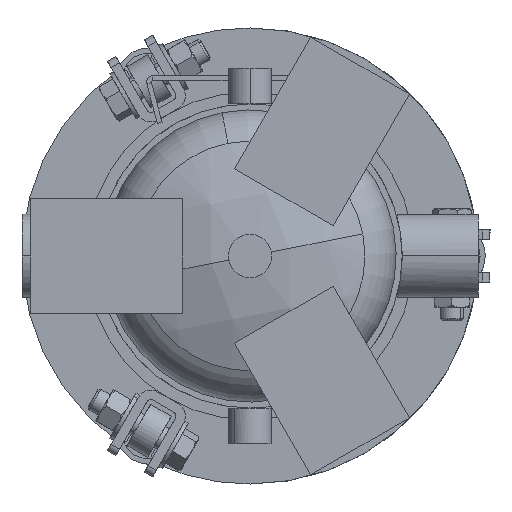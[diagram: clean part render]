
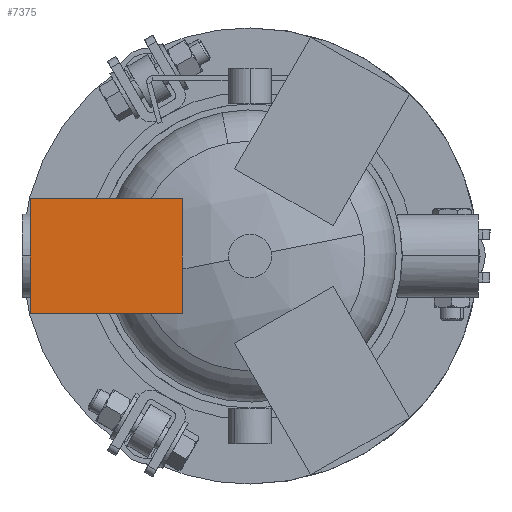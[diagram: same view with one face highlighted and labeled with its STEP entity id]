
A CAD part, front view. The second image highlights one B-rep face of the part: STEP entity #7375.
In plain terms, the highlighted planar face has unit normal (0, -1, 0).
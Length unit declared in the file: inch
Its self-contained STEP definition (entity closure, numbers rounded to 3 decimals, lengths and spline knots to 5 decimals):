
#524 = EDGE_CURVE ( 'NONE', #1710, #13891, #559, .T. ) ;
#559 = LINE ( 'NONE', #7602, #5809 ) ;
#942 = CARTESIAN_POINT ( 'NONE',  ( -1.78241, -23.75, -1.5 ) ) ;
#1078 = PLANE ( 'NONE',  #16422 ) ;
#1710 = VERTEX_POINT ( 'NONE', #3176 ) ;
#2702 = ORIENTED_EDGE ( 'NONE', *, *, #16231, .F. ) ;
#3083 = EDGE_CURVE ( 'NONE', #13891, #14837, #3353, .T. ) ;
#3176 = CARTESIAN_POINT ( 'NONE',  ( -5.78241, -23.75, -1.5 ) ) ;
#3288 = EDGE_LOOP ( 'NONE', ( #17600, #2702, #7517, #15733 ) ) ;
#3353 = LINE ( 'NONE', #9336, #6192 ) ;
#3985 = LINE ( 'NONE', #18952, #13826 ) ;
#4365 = VERTEX_POINT ( 'NONE', #942 ) ;
#5543 = DIRECTION ( 'NONE',  ( -1., 0., 0. ) ) ;
#5710 = LINE ( 'NONE', #11405, #15057 ) ;
#5809 = VECTOR ( 'NONE', #6531, 39.37008 ) ;
#6192 = VECTOR ( 'NONE', #18322, 39.37008 ) ;
#6531 = DIRECTION ( 'NONE',  ( 0., 0., 1. ) ) ;
#7059 = CARTESIAN_POINT ( 'NONE',  ( -5.78241, -23.75, -1.5 ) ) ;
#7375 = ADVANCED_FACE ( 'NONE', ( #16073 ), #1078, .F. ) ;
#7517 = ORIENTED_EDGE ( 'NONE', *, *, #16604, .F. ) ;
#7602 = CARTESIAN_POINT ( 'NONE',  ( -5.78241, -23.75, 1.5 ) ) ;
#8554 = DIRECTION ( 'NONE',  ( 0., 0., -1. ) ) ;
#9336 = CARTESIAN_POINT ( 'NONE',  ( -1.78241, -23.75, 1.5 ) ) ;
#11405 = CARTESIAN_POINT ( 'NONE',  ( -1.78241, -23.75, 1.5 ) ) ;
#11575 = DIRECTION ( 'NONE',  ( 0., 0., -1. ) ) ;
#13035 = DIRECTION ( 'NONE',  ( 0., 1., 0. ) ) ;
#13590 = CARTESIAN_POINT ( 'NONE',  ( -1.78241, -23.75, 1.5 ) ) ;
#13826 = VECTOR ( 'NONE', #5543, 39.37008 ) ;
#13891 = VERTEX_POINT ( 'NONE', #19021 ) ;
#14837 = VERTEX_POINT ( 'NONE', #13590 ) ;
#15057 = VECTOR ( 'NONE', #8554, 39.37008 ) ;
#15733 = ORIENTED_EDGE ( 'NONE', *, *, #3083, .F. ) ;
#16073 = FACE_OUTER_BOUND ( 'NONE', #3288, .T. ) ;
#16231 = EDGE_CURVE ( 'NONE', #4365, #1710, #3985, .T. ) ;
#16422 = AXIS2_PLACEMENT_3D ( 'NONE', #7059, #13035, #11575 ) ;
#16604 = EDGE_CURVE ( 'NONE', #14837, #4365, #5710, .T. ) ;
#17600 = ORIENTED_EDGE ( 'NONE', *, *, #524, .F. ) ;
#18322 = DIRECTION ( 'NONE',  ( 1., 0., 0. ) ) ;
#18952 = CARTESIAN_POINT ( 'NONE',  ( -1.78241, -23.75, -1.5 ) ) ;
#19021 = CARTESIAN_POINT ( 'NONE',  ( -5.78241, -23.75, 1.5 ) ) ;
